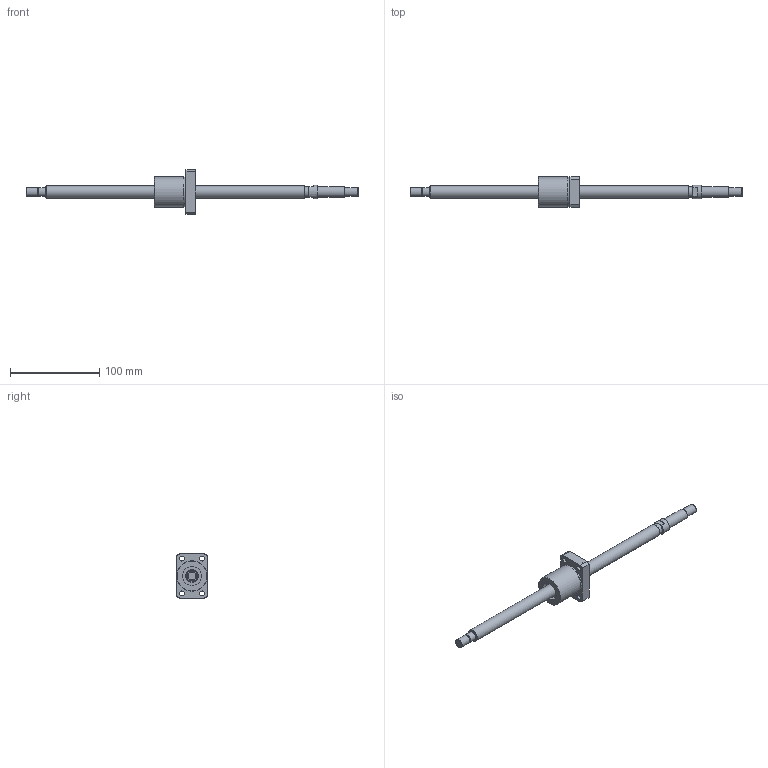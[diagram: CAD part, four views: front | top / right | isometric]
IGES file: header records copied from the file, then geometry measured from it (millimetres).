
Start section: Data from Parasolid IGES Translator 26.0.171, Copyright(c) 2006 Siemens PLM Software. All Rights Reserved.
Global section: file name: BNK1408-2.5RRG0+371LC5Y(167.50).igs; native system: By Siemens PLM Incorporated; preprocessor: XPlus GENERIC/IGES 26.0.171; author: Noname; organization: Noname; date: 20240709.091701; units: millimetre
Bounding box: 371 x 34 x 50 mm (x, y, z)
Surface area: 27963.7 mm2 (no closed solid volume)
Topology: 0 solids, 0 shells, 74 faces, 325 edges, 281 vertices
Faces by surface type: revolution 46, extrusion 28
